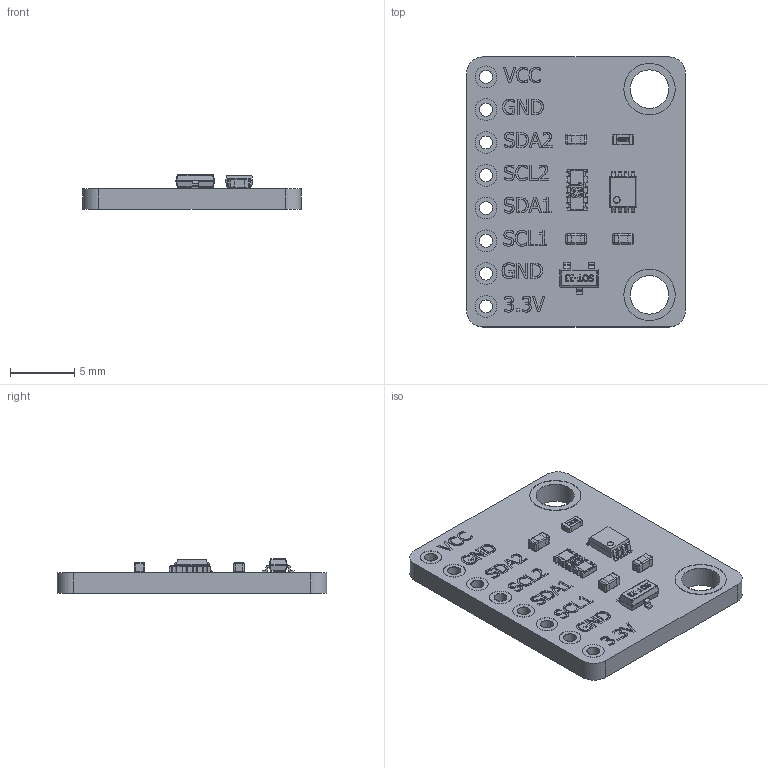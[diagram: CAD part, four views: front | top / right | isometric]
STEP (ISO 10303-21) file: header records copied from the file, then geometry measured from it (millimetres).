
FILE_DESCRIPTION(('FreeCAD Model'),'2;1');
FILE_NAME('Open CASCADE Shape Model','2024-03-21T15:16:48',(''),(''), 'Open CASCADE STEP processor 7.6','FreeCAD','Unknown');
FILE_SCHEMA(('AUTOMOTIVE_DESIGN { 1 0 10303 214 1 1 1 1 }'));
Length unit declared in the file: millimetre
Products named in the file (12): Unnamed; Board; Parts; 0603; ť󡬼1; ť󡬼2; SOT23-3; C0603_001; C0603_002; C0603_003; VSSSOP8; CAT16-J4
Assembly tree (12 placements, depth 4):
  Unnamed
    Board
    Parts
      0603
        ť󡬼1
        ť󡬼2  x2
      SOT23-3
      C0603_001
      C0603_002
      C0603_003
      VSSSOP8
      CAT16-J4
Bounding box: 17 x 21 x 2.7 mm (x, y, z)
Volume: 551.5 mm3; surface area: 960.3 mm2
Topology: 23 solids, 23 shells, 1564 faces, 8935 edges, 26399 vertices
Faces by surface type: plane 598, extrusion 500, cylinder 258, bspline 164, sphere 44
Full cylindrical faces by diameter (mm): 1 x24, 1.7 x16, 3 x6, 4 x4
Entity records: 146683 total; most frequent: CARTESIAN_POINT 60583, ORIENTED_EDGE 8286, DIRECTION 8240, GEOMETRIC_CURVE_SET 4753, TRIMMED_CURVE 4724, VECTOR 4178, B_SPLINE_CURVE_WITH_KNOTS 4176, EDGE_CURVE 4143
